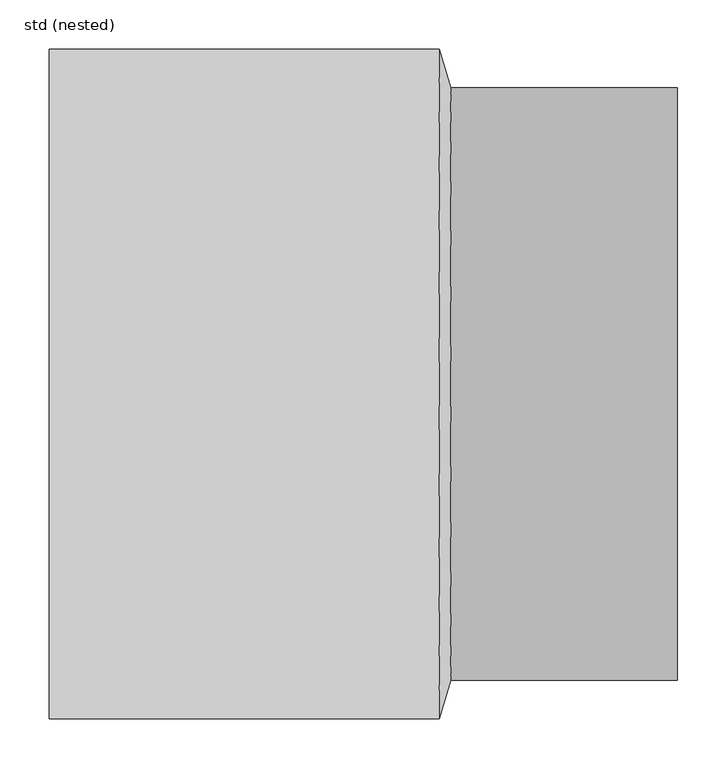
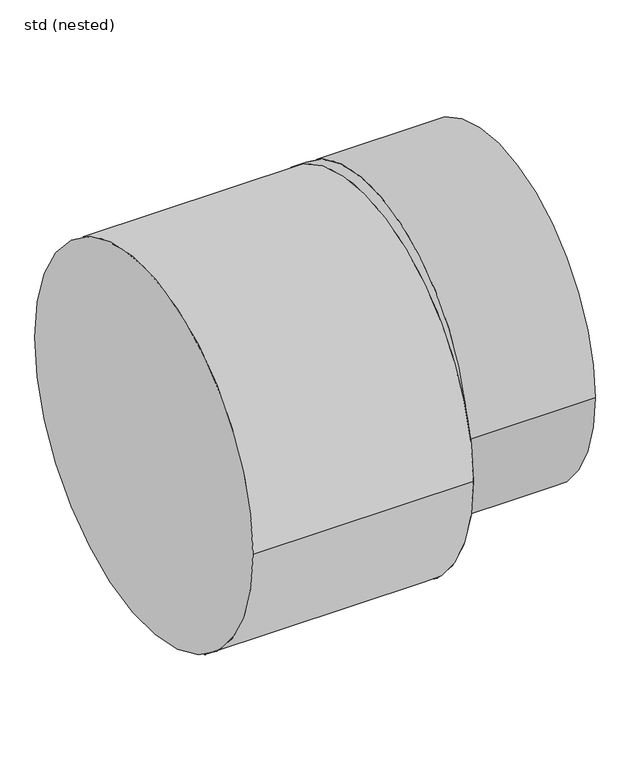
"""IFC4 building model written with IfcOpenShell, lengths in millimetres: pipe fitting geometry, NLRS_52_PIF_WPB_Ultra Kyma verloop MV SH_Dyka : std (nested)."""

from ifc_helpers import new_model, si_unit, point, frame, frame_2d, origin, origin_2d, place, context, project, spatial, circle_curve, trimmed, segment, composite_curve, outline, extrude, source, transform, mapped, element, save
from ifc_brep_helpers import plane_surface, spline_surface, advanced_brep


def std_nested_414ee96d(model_context):
    return source(origin(), model_context, "Body", "SolidModel", [
        extrude(outline(composite_curve([segment(trimmed(circle_curve(frame_2d((0.0, 50.0)), 301.0), [point((-301.0, 50.0))], [point((301.0, 50.0))], False, "CARTESIAN"), True, "CONTINUOUS"), segment(trimmed(circle_curve(frame_2d((0.0, 50.0)), 301.0), [point((301.0, 50.0))], [point((-301.0, 50.0))], False, "CARTESIAN"), True, "CONTINUOUS")], self_intersect=False), holes=[composite_curve([segment(trimmed(circle_curve(frame_2d((0.0, 50.0)), 284.0), [point((284.0, 50.0))], [point((-284.0, 50.0))], True, "CARTESIAN"), True, "CONTINUOUS"), segment(trimmed(circle_curve(frame_2d((0.0, 50.0)), 284.0), [point((-284.0, 50.0))], [point((284.0, 50.0))], True, "CARTESIAN"), True, "CONTINUOUS")], self_intersect=False)]), frame((408.0, 0.0, 0.0), z_axis=(1.0, 0.0, 0.0), x_axis=(0.0, 1.0, 0.0)), (0.0, 0.0, 1.0), 230.0),
        extrude(outline(composite_curve([segment(trimmed(circle_curve(origin_2d(), 340.0), [point((-340.0, 0.0))], [point((340.0, 0.0))], False, "CARTESIAN"), True, "CONTINUOUS"), segment(trimmed(circle_curve(origin_2d(), 340.0), [point((340.0, 0.0))], [point((-340.0, 0.0))], False, "CARTESIAN"), True, "CONTINUOUS")], self_intersect=False)), frame((0.0, 0.0, 0.0), z_axis=(1.0, 0.0, 0.0), x_axis=(0.0, 1.0, 0.0)), (0.0, 0.0, 1.0), 396.0),
        advanced_brep(
        [(408.0, -301.0, 50.0), (408.0, 301.0, 50.0), (396.0, -340.0, 0.0), (396.0, 340.0, 0.0)],
        [
            (0, 1, circle_curve(frame((408.0, 0.0, 50.0), z_axis=(1.0, 0.0, 0.0), x_axis=(0.0, 1.0, 0.0)), 301.0)),
            (1, 0, circle_curve(frame((408.0, 0.0, 50.0), z_axis=(1.0, 0.0, 0.0), x_axis=(0.0, 1.0, 0.0)), 301.0)),
            (2, 3, circle_curve(frame((396.0, 0.0, 0.0), z_axis=(-1.0, 0.0, 0.0), x_axis=(0.0, 1.0, 0.0)), 340.0)),
            (3, 2, circle_curve(frame((396.0, 0.0, 0.0), z_axis=(-1.0, 0.0, 0.0), x_axis=(0.0, 1.0, 0.0)), 340.0)),
            (2, 0),
            (1, 3),
        ],
        [
            plane_surface(frame((408.0, 0.0, 50.0), z_axis=(1.0, 0.0, 0.0), x_axis=(0.0, 0.0, -1.0))),
            plane_surface(frame((396.0, 0.0, 0.0), z_axis=(-1.0, 0.0, 0.0), x_axis=(0.0, 0.0, -1.0))),
            spline_surface(2, 1, [[(396.0, 340.0, 0.0), (408.0, 301.0, 50.0)], [(396.0, 340.0, 340.0), (408.0, 301.0, 351.0)], [(396.0, 0.0, 340.0), (408.0, 0.0, 351.0)], [(396.0, -340.0, 340.0), (408.0, -301.0, 351.0)], [(396.0, -340.0, 0.0), (408.0, -301.0, 50.0)]], [3, 2, 3], [2, 2], [0.0, 1.0, 2.0], [0.0, 1.0], weights=[[1.0, 1.0], [0.7071067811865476, 0.7071067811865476], [1.0, 1.0], [0.7071067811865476, 0.7071067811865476], [1.0, 1.0]]),
            spline_surface(2, 1, [[(396.0, -340.0, 0.0), (408.0, -301.0, 50.0)], [(396.0, -340.0, -340.0), (408.0, -301.0, -251.0)], [(396.0, 0.0, -340.0), (408.0, 0.0, -251.0)], [(396.0, 340.0, -340.0), (408.0, 301.0, -251.0)], [(396.0, 340.0, 0.0), (408.0, 301.0, 50.0)]], [3, 2, 3], [2, 2], [0.0, 1.0, 2.0], [0.0, 1.0], weights=[[1.0, 1.0], [0.7071067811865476, 0.7071067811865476], [1.0, 1.0], [0.7071067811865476, 0.7071067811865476], [1.0, 1.0]]),
        ],
        [
            (0, [[1, 2]]),
            (1, [[3, 4]]),
            (2, [[-3, 5, -2, 6]]),
            (3, [[-4, -6, -1, -5]]),
        ],
    ),
    ])


if __name__ == "__main__":
    model = new_model("IFC4")
    model_context = context("Model", 3, world=origin())
    ifc_project = project(units=[si_unit("LENGTHUNIT", "METRE", prefix="MILLI")], contexts=[model_context])
    site = spatial("IfcSite", under=ifc_project)
    building = spatial("IfcBuilding", under=site)
    placement = place(None, origin())
    std_nested_shape = std_nested_414ee96d(model_context)
    element("IfcPipeFitting", 1, ObjectType="NLRS_52_PIF_WPB_Ultra Kyma verloop MV SH_Dyka : std (nested)", at=placement, inside=building, context=model_context, shape_type="MappedRepresentation", body=[
        mapped(std_nested_shape, transform((0.0, 0.0, 0.0), x_axis=(1.0, 0.0, 0.0), y_axis=(0.0, 1.0, 0.0), z_axis=(0.0, 0.0, 1.0))),
    ])
    save(model, "model.ifc")
